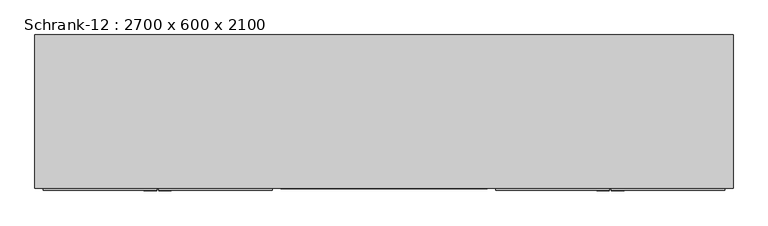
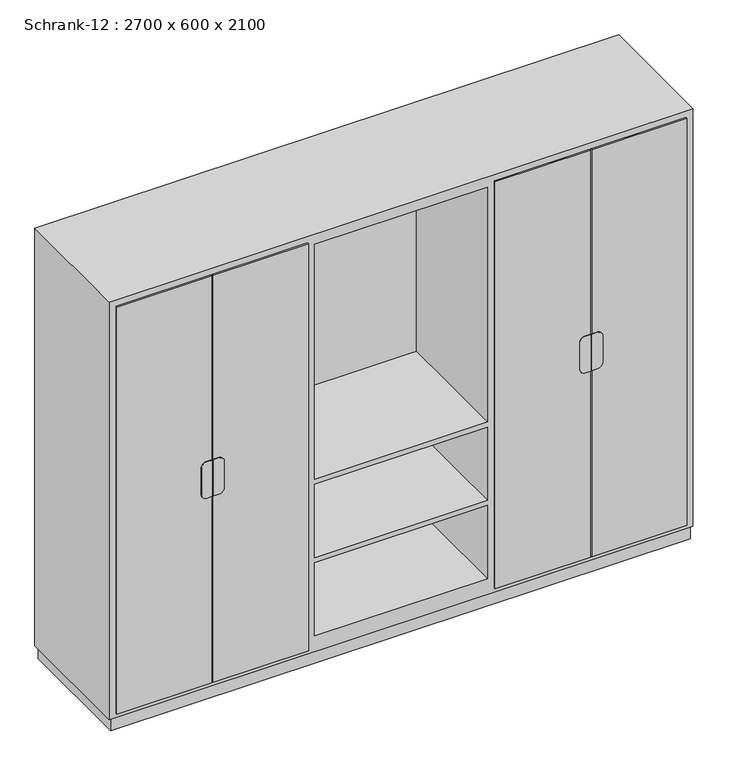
"""IFC4 building model written with IfcOpenShell, lengths in millimetres: furniture geometry, Schrank-12 : 2700 x 600 x 2100."""

from ifc_helpers import new_model, si_unit, point, frame, frame_2d, origin, origin_with_axes, place, context, project, spatial, polyline, circle_curve, trimmed, segment, composite_curve, outline, extrude, faceted_brep, source, transform, mapped, element, save


def schrank_12_2700_x_600_x_2100_568bd233(model_context):
    return source(origin(), model_context, "Body", "SolidModel", [
        extrude(outline(composite_curve([segment(polyline([(1168.9, -847.5986452), (1168.9, -871.825), (991.1, -871.825), (991.1, -847.5986452)]), True, "CONTINUOUS"), segment(trimmed(circle_curve(frame_2d((1016.5, -847.5986452)), 25.4), [point((991.1, -847.5986452))], [point((1016.5, -822.1986452))], False, "CARTESIAN"), True, "CONTINUOUS"), segment(polyline([(1016.5, -822.1986452), (1143.5, -822.1986452)]), True, "CONTINUOUS"), segment(trimmed(circle_curve(frame_2d((1143.5, -847.5986452)), 25.4), [point((1143.5, -822.1986452))], [point((1168.9, -847.5986452))], False, "CARTESIAN"), True, "CONTINUOUS")], self_intersect=False)), frame((0.0, -709.575, 0.0), z_axis=(0.0, 1.0, 0.0), x_axis=(0.0, 0.0, 1.0)), (0.0, 0.0, 1.0), 3.175),
        extrude(outline(composite_curve([segment(trimmed(circle_curve(frame_2d((1143.5, -902.78125)), 25.4), [point((1168.9, -902.78125))], [point((1143.5, -928.18125))], False, "CARTESIAN"), True, "CONTINUOUS"), segment(polyline([(1143.5, -928.18125), (1016.5, -928.18125)]), True, "CONTINUOUS"), segment(trimmed(circle_curve(frame_2d((1016.5, -902.78125)), 25.4), [point((1016.5, -928.18125))], [point((991.1, -902.78125))], False, "CARTESIAN"), True, "CONTINUOUS"), segment(polyline([(991.1, -902.78125), (991.1, -878.175), (1168.9, -878.175), (1168.9, -902.78125)]), True, "CONTINUOUS")], self_intersect=False)), frame((0.0, -709.575, 0.0), z_axis=(0.0, 1.0, 0.0), x_axis=(0.0, 0.0, 1.0)), (0.0, 0.0, 1.0), 3.175),
        extrude(outline(composite_curve([segment(trimmed(circle_curve(frame_2d((1143.5, 847.5986452)), 25.4), [point((1168.9, 847.5986452))], [point((1143.5, 822.1986452))], False, "CARTESIAN"), True, "CONTINUOUS"), segment(polyline([(1143.5, 822.1986452), (1016.5, 822.1986452)]), True, "CONTINUOUS"), segment(trimmed(circle_curve(frame_2d((1016.5, 847.5986452)), 25.4), [point((1016.5, 822.1986452))], [point((991.1, 847.5986452))], False, "CARTESIAN"), True, "CONTINUOUS"), segment(polyline([(991.1, 847.5986452), (991.1, 871.825), (1168.9, 871.825), (1168.9, 847.5986452)]), True, "CONTINUOUS")], self_intersect=False)), frame((0.0, -709.575, 0.0), z_axis=(0.0, 1.0, 0.0), x_axis=(0.0, 0.0, 1.0)), (0.0, 0.0, 1.0), 3.175),
        extrude(outline(composite_curve([segment(polyline([(1168.9, 902.78125), (1168.9, 878.175), (991.1, 878.175), (991.1, 902.78125)]), True, "CONTINUOUS"), segment(trimmed(circle_curve(frame_2d((1016.5, 902.78125)), 25.4), [point((991.1, 902.78125))], [point((1016.5, 928.18125))], False, "CARTESIAN"), True, "CONTINUOUS"), segment(polyline([(1016.5, 928.18125), (1143.5, 928.18125)]), True, "CONTINUOUS"), segment(trimmed(circle_curve(frame_2d((1143.5, 902.78125)), 25.4), [point((1143.5, 928.18125))], [point((1168.9, 902.78125))], False, "CARTESIAN"), True, "CONTINUOUS")], self_intersect=False)), frame((0.0, -709.575, 0.0), z_axis=(0.0, 1.0, 0.0), x_axis=(0.0, 0.0, 1.0)), (0.0, 0.0, 1.0), 3.175),
        extrude(outline(polyline([(-1318.25, -700.05), (-878.175, -700.05), (-878.175, -706.4), (-1318.25, -706.4), (-1318.25, -700.05)])), frame((0.0, 0.0, 80.0), z_axis=(0.0, 0.0, 1.0), x_axis=(1.0, 0.0, 0.0)), (0.0, 0.0, 1.0), 1988.25),
        extrude(outline(polyline([(-871.825, -700.05), (-431.75, -700.05), (-431.75, -706.4), (-871.825, -706.4), (-871.825, -700.05)])), frame((0.0, 0.0, 80.0), z_axis=(0.0, 0.0, 1.0), x_axis=(1.0, 0.0, 0.0)), (0.0, 0.0, 1.0), 1988.25),
        extrude(outline(polyline([(878.175, -700.05), (1318.25, -700.05), (1318.25, -706.4), (878.175, -706.4), (878.175, -700.05)])), frame((0.0, 0.0, 80.0), z_axis=(0.0, 0.0, 1.0), x_axis=(1.0, 0.0, 0.0)), (0.0, 0.0, 1.0), 1988.25),
        extrude(outline(polyline([(431.75, -700.05), (871.825, -700.05), (871.825, -706.4), (431.75, -706.4), (431.75, -700.05)])), frame((0.0, 0.0, 80.0), z_axis=(0.0, 0.0, 1.0), x_axis=(1.0, 0.0, 0.0)), (0.0, 0.0, 1.0), 1988.25),
        faceted_brep([(1350.0, -700.05, 60.0), (1350.0, -700.05, 2100.0), (-1350.0, -700.05, 2100.0), (-1350.0, -700.05, 60.0), (-450.8, -700.05, 2049.2), (-450.8, -700.05, 1602.7), (-1299.2, -700.05, 1602.7), (-1299.2, -700.05, 2049.2), (-450.8, -700.05, 136.0), (-1299.2, -700.05, 136.0), (-1299.2, -700.05, 557.3), (-450.8, -700.05, 557.3), (1299.2, -700.05, 1602.7), (450.8, -700.05, 1602.7), (450.8, -700.05, 2049.2), (1299.2, -700.05, 2049.2), (-400.0, -700.05, 902.2), (-400.0, -700.05, 2049.2), (400.0, -700.05, 2049.2), (400.0, -700.05, 902.2), (400.0, -700.05, 136.0), (-400.0, -700.05, 136.0), (-400.0, -700.05, 493.8), (400.0, -700.05, 493.8), (1299.2, -700.05, 136.0), (450.8, -700.05, 136.0), (450.8, -700.05, 557.3), (1299.2, -700.05, 557.3), (-1299.2, -700.05, 582.7), (-1299.2, -700.05, 1067.3), (-450.8, -700.05, 1067.3), (-450.8, -700.05, 582.7), (-450.8, -700.05, 1577.3), (-450.8, -700.05, 1092.7), (-1299.2, -700.05, 1092.7), (-1299.2, -700.05, 1577.3), (450.8, -700.05, 1577.3), (1299.2, -700.05, 1577.3), (1299.2, -700.05, 1092.7), (450.8, -700.05, 1092.7), (450.8, -700.05, 1067.3), (1299.2, -700.05, 1067.3), (1299.2, -700.05, 582.7), (450.8, -700.05, 582.7), (400.0, -700.05, 519.2), (-400.0, -700.05, 519.2), (-400.0, -700.05, 876.8), (400.0, -700.05, 876.8), (-1350.0, -106.4, 60.0), (-1350.0, -106.4, 2100.0), (1350.0, -106.4, 2100.0), (1350.0, -106.4, 60.0), (-450.8, -131.8, 2049.2), (-450.8, -131.8, 1602.7), (-1299.2, -131.8, 1602.7), (-1299.2, -131.8, 2049.2), (-450.8, -131.8, 136.0), (-1299.2, -131.8, 136.0), (-1299.2, -131.8, 557.3), (-450.8, -131.8, 557.3), (1299.2, -131.8, 1602.7), (450.8, -131.8, 1602.7), (450.8, -131.8, 2049.2), (1299.2, -131.8, 2049.2), (-400.0, -131.8, 902.2), (-400.0, -131.8, 2049.2), (400.0, -131.8, 2049.2), (400.0, -131.8, 902.2), (400.0, -131.8, 136.0), (-400.0, -131.8, 136.0), (-400.0, -131.8, 493.8), (400.0, -131.8, 493.8), (1299.2, -131.8, 136.0), (450.8, -131.8, 136.0), (450.8, -131.8, 557.3), (1299.2, -131.8, 557.3), (-1299.2, -131.8, 582.7), (-1299.2, -131.8, 1067.3), (-450.8, -131.8, 1067.3), (-450.8, -131.8, 582.7), (-450.8, -131.8, 1577.3), (-450.8, -131.8, 1092.7), (-1299.2, -131.8, 1092.7), (-1299.2, -131.8, 1577.3), (450.8, -131.8, 1577.3), (1299.2, -131.8, 1577.3), (1299.2, -131.8, 1092.7), (450.8, -131.8, 1092.7), (450.8, -131.8, 1067.3), (1299.2, -131.8, 1067.3), (1299.2, -131.8, 582.7), (450.8, -131.8, 582.7), (400.0, -131.8, 519.2), (-400.0, -131.8, 519.2), (-400.0, -131.8, 876.8), (400.0, -131.8, 876.8)], [[[0, 1, 2, 3], [4, 5, 6, 7], [8, 9, 10, 11], [12, 13, 14, 15], [16, 17, 18, 19], [20, 21, 22, 23], [24, 25, 26, 27], [28, 29, 30, 31], [32, 33, 34, 35], [36, 37, 38, 39], [40, 41, 42, 43], [44, 45, 46, 47]], [[48, 49, 50, 51]], [[1, 0, 51, 50]], [[2, 1, 50, 49]], [[3, 2, 49, 48]], [[0, 3, 48, 51]], [[5, 4, 52, 53]], [[6, 5, 53, 54]], [[7, 6, 54, 55]], [[4, 7, 55, 52]], [[9, 8, 56, 57]], [[10, 9, 57, 58]], [[11, 10, 58, 59]], [[8, 11, 59, 56]], [[13, 12, 60, 61]], [[14, 13, 61, 62]], [[15, 14, 62, 63]], [[12, 15, 63, 60]], [[17, 16, 64, 65]], [[18, 17, 65, 66]], [[19, 18, 66, 67]], [[16, 19, 67, 64]], [[21, 20, 68, 69]], [[22, 21, 69, 70]], [[23, 22, 70, 71]], [[20, 23, 71, 68]], [[25, 24, 72, 73]], [[26, 25, 73, 74]], [[27, 26, 74, 75]], [[24, 27, 75, 72]], [[29, 28, 76, 77]], [[30, 29, 77, 78]], [[31, 30, 78, 79]], [[28, 31, 79, 76]], [[33, 32, 80, 81]], [[34, 33, 81, 82]], [[35, 34, 82, 83]], [[32, 35, 83, 80]], [[37, 36, 84, 85]], [[38, 37, 85, 86]], [[39, 38, 86, 87]], [[36, 39, 87, 84]], [[41, 40, 88, 89]], [[42, 41, 89, 90]], [[43, 42, 90, 91]], [[40, 43, 91, 88]], [[45, 44, 92, 93]], [[46, 45, 93, 94]], [[47, 46, 94, 95]], [[44, 47, 95, 92]], [[53, 52, 55, 54]], [[57, 56, 59, 58]], [[61, 60, 63, 62]], [[65, 64, 67, 66]], [[69, 68, 71, 70]], [[73, 72, 75, 74]], [[77, 76, 79, 78]], [[81, 80, 83, 82]], [[85, 84, 87, 86]], [[89, 88, 91, 90]], [[93, 92, 95, 94]]]),
        extrude(outline(polyline([(1340.0, -116.4), (1340.0, -696.4), (-1340.0, -696.4), (-1340.0, -116.4), (1340.0, -116.4)]), holes=[polyline([(1310.0, -146.4), (-1310.0, -146.4), (-1310.0, -666.4), (1310.0, -666.4), (1310.0, -146.4)])]), origin_with_axes(), (0.0, 0.0, 1.0), 60.0),
    ])


if __name__ == "__main__":
    model = new_model("IFC4")
    model_context = context("Model", 3, world=origin())
    ifc_project = project(units=[si_unit("LENGTHUNIT", "METRE", prefix="MILLI")], contexts=[model_context])
    site = spatial("IfcSite", under=ifc_project)
    building = spatial("IfcBuilding", under=site)
    placement = place(None, origin())
    schrank_12_2700_x_600_x_2100_shape = schrank_12_2700_x_600_x_2100_568bd233(model_context)
    element("IfcFurniture", 1, ObjectType="Schrank-12 : 2700 x 600 x 2100", at=placement, inside=building, context=model_context, shape_type="MappedRepresentation", body=[
        mapped(schrank_12_2700_x_600_x_2100_shape, transform((0.0, 0.0, 0.0), x_axis=(1.0, 0.0, 0.0), y_axis=(0.0, 1.0, 0.0), z_axis=(0.0, 0.0, 1.0))),
    ])
    save(model, "model.ifc")
